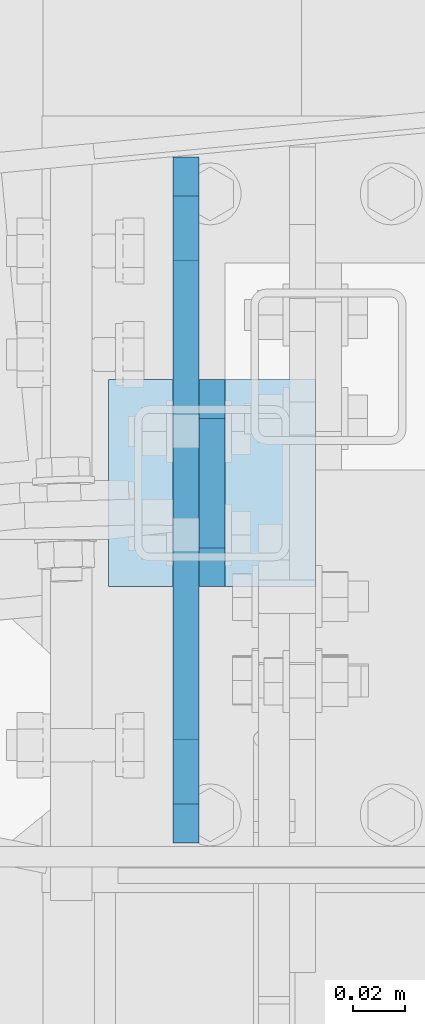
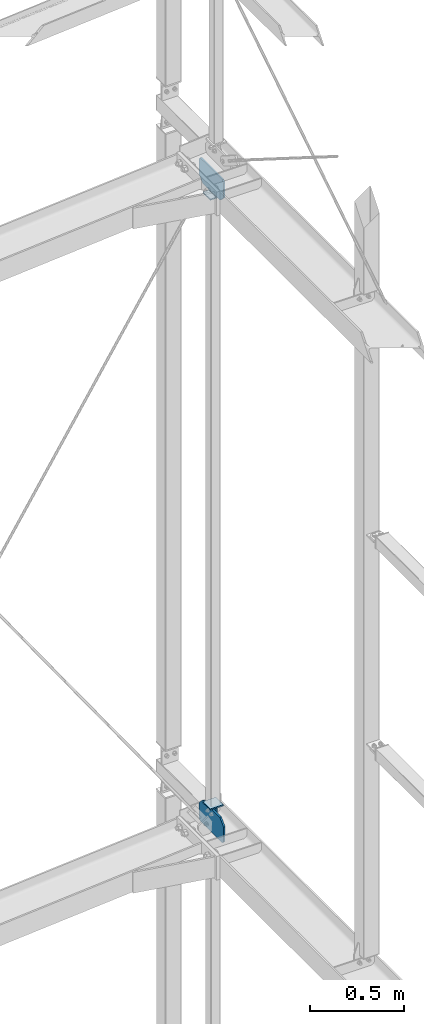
# One storey, part 188 of 271: 6 plates, 3 elements without a shape of their own.
"""IFC2X3 building model written with IfcOpenShell, lengths in millimetres."""

from ifc_helpers import new_model, si_unit, frame, origin_with_axes, place, context, subcontext, project, spatial, polyline, outline, extrude, material, type_object, element, aggregate, save


model = new_model("IFC2X3")

# Units and contexts
model_context = context("Model", 3, precision=1e-05, world=origin_with_axes())
body_context = subcontext(model_context, "Body", "Model", "MODEL_VIEW")
ifc_project = project(units=[si_unit("LENGTHUNIT", "METRE", prefix="MILLI"), si_unit("AREAUNIT", "SQUARE_METRE"), si_unit("VOLUMEUNIT", "CUBIC_METRE"), si_unit("MASSUNIT", "GRAM", prefix="KILO"), si_unit("TIMEUNIT", "SECOND"), si_unit("PLANEANGLEUNIT", "RADIAN"), si_unit("SOLIDANGLEUNIT", "STERADIAN"), si_unit("THERMODYNAMICTEMPERATUREUNIT", "DEGREE_CELSIUS"), si_unit("LUMINOUSINTENSITYUNIT", "LUMEN")], contexts=[model_context])

# Site, building, storey
site_placement = place(None, origin_with_axes())
site = spatial("IfcSite", under=ifc_project, at=site_placement, Name="Undefined", CompositionType="ELEMENT")
building_placement = place(site_placement, origin_with_axes())
building = spatial("IfcBuilding", under=site, at=building_placement, Name="Undefined", CompositionType="ELEMENT")
storey_placement = place(building_placement, origin_with_axes())
storey = spatial("IfcBuildingStorey", under=building, at=storey_placement, Name="Undefined", CompositionType="ELEMENT", Elevation=0.0)

# Assembly, plates
assembly_1_placement = place(storey_placement, origin_with_axes())
assembly_1 = element("IfcElementAssembly", 1, at=assembly_1_placement, inside=storey, AssemblyPlace="NOTDEFINED", PredefinedType="RIGID_FRAME")
ifc_material = material(Name="STEEL/S355JR")
plate_type_1 = type_object("IfcPlateType", Name="BL10*70", PredefinedType="NOTDEFINED")
plate_1_placement = place(assembly_1_placement, frame((12573.751374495, 4332.19355050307, 18526.049999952), z_axis=(1.0, 0.0, 0.0), x_axis=(0.0, -0.707106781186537, 0.707106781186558)))
plate_1 = element("IfcPlate", 2, at=plate_1_placement, type_object=plate_type_1, material=ifc_material, Name="BLACHA", ObjectType="BL10*70", context=body_context, shape_type="SweptSolid", body=[
    extrude(outline(polyline([(0.0, 0.0), (21.2132034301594, 1.09139364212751e-11), (56.5685424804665, 35.3553390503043), (56.568542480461, 56.5685424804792), (17.6776695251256, 95.4594192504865), (-38.890872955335, 38.8908729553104), (0.0, 0.0)])), frame((0.0, 0.0, -5.0), z_axis=(0.0, 0.0, 1.0), x_axis=(1.0, 0.0, 0.0)), (0.0, 0.0, 1.0), 10.0),
])
plate_2_placement = place(assembly_1_placement, frame((12573.751374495, 4252.19355050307, 14442.649999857), z_axis=(1.0, 0.0, 0.0), x_axis=(0.0, 0.707106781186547, -0.707106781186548)))
plate_2 = element("IfcPlate", 3, at=plate_2_placement, type_object=plate_type_1, material=ifc_material, Name="BLACHA", ObjectType="BL10*70", context=body_context, shape_type="SweptSolid", body=[
    extrude(outline(polyline([(0.0, 0.0), (21.2132034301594, 1.09139364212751e-11), (56.5685424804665, 35.3553390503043), (56.568542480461, 56.5685424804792), (17.6776695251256, 95.4594192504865), (-38.890872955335, 38.8908729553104), (0.0, 0.0)])), frame((0.0, 0.0, -5.0), z_axis=(0.0, 0.0, 1.0), x_axis=(1.0, 0.0, 0.0)), (0.0, 0.0, 1.0), 10.0),
])
plate_type_2 = type_object("IfcPlateType", Name="BL8*80", PredefinedType="NOTDEFINED")
plate_3_placement = place(assembly_1_placement, frame((12533.751374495, 4332.19355050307, 18467.049999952), z_axis=(0.0, 0.0, 1.0), x_axis=(0.0, -1.0, 0.0)))
plate_3 = element("IfcPlate", 4, at=plate_3_placement, type_object=plate_type_2, material=ifc_material, Name="BLACHA", ObjectType="BL8*80", context=body_context, shape_type="SweptSolid", body=[
    extrude(outline(polyline([(0.0, 0.0), (80.0, 0.0), (80.0, 80.0), (0.0, 80.0), (0.0, 0.0)])), frame((0.0, 0.0, -4.0), z_axis=(0.0, 0.0, 1.0), x_axis=(1.0, 0.0, 0.0)), (0.0, 0.0, 1.0), 8.0),
])
plate_4_placement = place(assembly_1_placement, frame((12533.751374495, 4252.19355050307, 14501.649999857), z_axis=(0.0, 0.0, -1.0), x_axis=(0.0, 1.0, 0.0)))
plate_4 = element("IfcPlate", 5, at=plate_4_placement, type_object=plate_type_2, material=ifc_material, Name="BLACHA", ObjectType="BL8*80", context=body_context, shape_type="SweptSolid", body=[
    extrude(outline(polyline([(0.0, 0.0), (80.0, 0.0), (80.0, 80.0), (0.0, 80.0), (0.0, 0.0)])), frame((0.0, 0.0, -4.0), z_axis=(0.0, 0.0, 1.0), x_axis=(1.0, 0.0, 0.0)), (0.0, 0.0, 1.0), 8.0),
])
aggregate(assembly_1, [plate_3, plate_1, plate_4, plate_2])

# Assembly, plate
assembly_2_placement = place(storey_placement, origin_with_axes())
assembly_2 = element("IfcElementAssembly", 6, at=assembly_2_placement, inside=storey, AssemblyPlace="NOTDEFINED", PredefinedType="RIGID_FRAME")
plate_type_3 = type_object("IfcPlateType", Name="BL10*150", PredefinedType="NOTDEFINED")
plate_5_placement = place(assembly_2_placement, frame((12563.751374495, 4418.19355050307, 18641.049999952), z_axis=(1.0, 0.0, 0.0), x_axis=(0.0, -1.0, 0.0)))
plate_5 = element("IfcPlate", 7, at=plate_5_placement, type_object=plate_type_3, material=ifc_material, Name="BLACHA", ObjectType="BL10*150", context=body_context, shape_type="SweptSolid", body=[
    extrude(outline(polyline([(0.0, 15.0), (15.0, -1.59872115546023e-14), (250.0, -1.4210854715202e-14), (265.0, 15.0), (265.0, 110.0), (225.0, 150.0), (40.0, 150.0), (0.0, 110.0), (0.0, 15.0)])), frame((0.0, 0.0, -5.0), z_axis=(0.0, 0.0, 1.0), x_axis=(1.0, 0.0, 0.0)), (0.0, 0.0, 1.0), 10.0),
])
aggregate(assembly_2, [plate_5])

assembly_3_placement = place(storey_placement, origin_with_axes())
assembly_3 = element("IfcElementAssembly", 8, at=assembly_3_placement, inside=storey, AssemblyPlace="NOTDEFINED", PredefinedType="RIGID_FRAME")
plate_6_placement = place(assembly_3_placement, frame((12563.751374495, 4153.19355050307, 14327.649999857), z_axis=(1.0, 0.0, 0.0), x_axis=(0.0, 1.0, 0.0)))
plate_6 = element("IfcPlate", 9, at=plate_6_placement, type_object=plate_type_3, material=ifc_material, Name="BLACHA", ObjectType="BL10*150", context=body_context, shape_type="SweptSolid", body=[
    extrude(outline(polyline([(0.0, 15.0), (15.0, -1.59872115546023e-14), (250.0, -1.4210854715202e-14), (265.0, 15.0), (265.0, 110.0), (225.0, 150.0), (40.0, 150.0), (0.0, 110.0), (0.0, 15.0)])), frame((0.0, 0.0, -5.0), z_axis=(0.0, 0.0, 1.0), x_axis=(1.0, 0.0, 0.0)), (0.0, 0.0, 1.0), 10.0),
])
aggregate(assembly_3, [plate_6])

save(model, "model.ifc")
